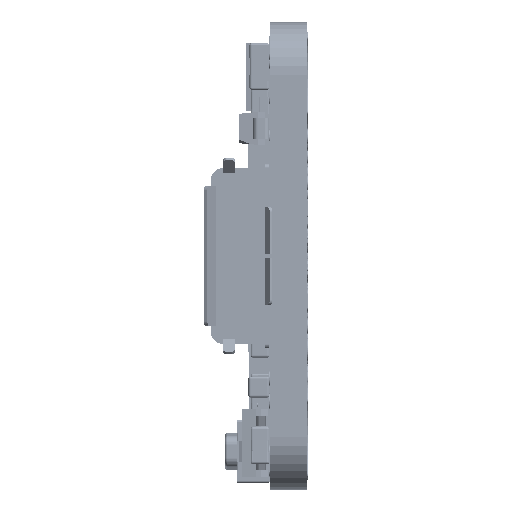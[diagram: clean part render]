
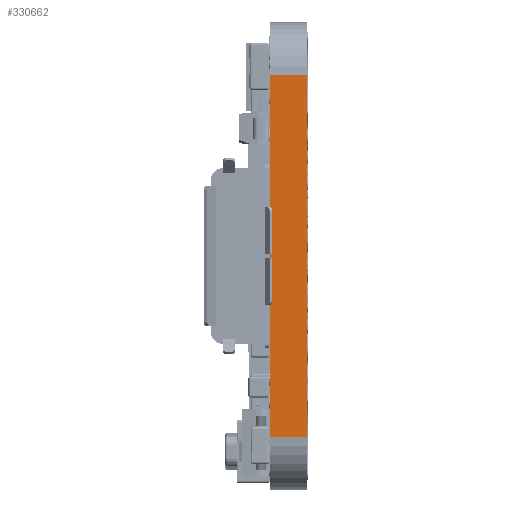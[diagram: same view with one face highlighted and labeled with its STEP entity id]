
A CAD part, left-side view. The second image highlights one B-rep face of the part: STEP entity #330662.
In plain terms, the highlighted planar face has unit normal (-1, 0, 0).
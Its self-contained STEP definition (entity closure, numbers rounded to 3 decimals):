
#28371 = ORIENTED_EDGE ( 'NONE', *, *, #128148, .F. ) ;
#28377 = ORIENTED_EDGE ( 'NONE', *, *, #78513, .F. ) ;
#28390 = ORIENTED_EDGE ( 'NONE', *, *, #78499, .F. ) ;
#28396 = ORIENTED_EDGE ( 'NONE', *, *, #128340, .F. ) ;
#28422 = ORIENTED_EDGE ( 'NONE', *, *, #77157, .T. ) ;
#28488 = ORIENTED_EDGE ( 'NONE', *, *, #78528, .T. ) ;
#44521 = VERTEX_POINT ( 'NONE', #146855 ) ;
#44620 = VERTEX_POINT ( 'NONE', #146828 ) ;
#44732 = VERTEX_POINT ( 'NONE', #146851 ) ;
#44745 = VERTEX_POINT ( 'NONE', #146859 ) ;
#52909 = EDGE_LOOP ( 'NONE', ( #28371, #28390, #28422, #28488, #28396, #28377 ) ) ;
#55175 = CARTESIAN_POINT ( 'NONE',  ( 100., -1.6, -102.25 ) ) ;
#55192 = DIRECTION ( 'NONE',  ( 0., 0., 1. ) ) ;
#55236 = DIRECTION ( 'NONE',  ( -1., 0., 0. ) ) ;
#55252 = PLANE ( 'NONE',  #57293 ) ;
#57293 = AXIS2_PLACEMENT_3D ( 'NONE', #55175, #55236, #55192 ) ;
#62511 = FACE_OUTER_BOUND ( 'NONE', #52909, .T. ) ;
#77157 = EDGE_CURVE ( 'NONE', #201420, #201428, #240258, .T. ) ;
#78499 = EDGE_CURVE ( 'NONE', #201420, #44620, #271794, .T. ) ;
#78513 = EDGE_CURVE ( 'NONE', #44521, #44745, #271805, .T. ) ;
#78528 = EDGE_CURVE ( 'NONE', #201428, #44732, #271927, .T. ) ;
#78882 = DIRECTION ( 'NONE',  ( 0., 0., 1. ) ) ;
#78902 = CARTESIAN_POINT ( 'NONE',  ( 100., 0., -102.25 ) ) ;
#79108 = CARTESIAN_POINT ( 'NONE',  ( 100., 0., -102.25 ) ) ;
#79110 = DIRECTION ( 'NONE',  ( 0., 0., 1. ) ) ;
#80802 = LINE ( 'NONE', #78902, #80808 ) ;
#80808 = VECTOR ( 'NONE', #78882, 1000. ) ;
#80905 = LINE ( 'NONE', #79108, #80951 ) ;
#80951 = VECTOR ( 'NONE', #79110, 1000. ) ;
#128148 = EDGE_CURVE ( 'NONE', #44620, #44521, #80802, .T. ) ;
#128340 = EDGE_CURVE ( 'NONE', #44745, #44732, #80905, .T. ) ;
#146828 = CARTESIAN_POINT ( 'NONE',  ( 100., 0., -117.75 ) ) ;
#146851 = CARTESIAN_POINT ( 'NONE',  ( 100., 0., -102.25 ) ) ;
#146855 = CARTESIAN_POINT ( 'NONE',  ( 100., 0., -113.862 ) ) ;
#146859 = CARTESIAN_POINT ( 'NONE',  ( 100., 0., -106.163 ) ) ;
#201420 = VERTEX_POINT ( 'NONE', #229177 ) ;
#201428 = VERTEX_POINT ( 'NONE', #229193 ) ;
#229177 = CARTESIAN_POINT ( 'NONE',  ( 100., -1.6, -117.75 ) ) ;
#229193 = CARTESIAN_POINT ( 'NONE',  ( 100., -1.6, -102.25 ) ) ;
#240258 = LINE ( 'NONE', #253391, #240330 ) ;
#240330 = VECTOR ( 'NONE', #253359, 1000. ) ;
#253359 = DIRECTION ( 'NONE',  ( 0., 0., 1. ) ) ;
#253391 = CARTESIAN_POINT ( 'NONE',  ( 100., -1.6, -102.25 ) ) ;
#256058 = CARTESIAN_POINT ( 'NONE',  ( 100., -1.6, -117.75 ) ) ;
#256090 = DIRECTION ( 'NONE',  ( 0., 1., 0. ) ) ;
#271733 = VECTOR ( 'NONE', #280464, 1000. ) ;
#271794 = LINE ( 'NONE', #256058, #271858 ) ;
#271805 = LINE ( 'NONE', #280486, #271733 ) ;
#271858 = VECTOR ( 'NONE', #256090, 1000. ) ;
#271927 = LINE ( 'NONE', #280466, #271970 ) ;
#271970 = VECTOR ( 'NONE', #280543, 1000. ) ;
#280464 = DIRECTION ( 'NONE',  ( 0., 0., 1. ) ) ;
#280466 = CARTESIAN_POINT ( 'NONE',  ( 100., -1.6, -102.25 ) ) ;
#280486 = CARTESIAN_POINT ( 'NONE',  ( 100., 0., -102.25 ) ) ;
#280543 = DIRECTION ( 'NONE',  ( 0., 1., 0. ) ) ;
#330662 = ADVANCED_FACE ( 'NONE', ( #62511 ), #55252, .T. ) ;
